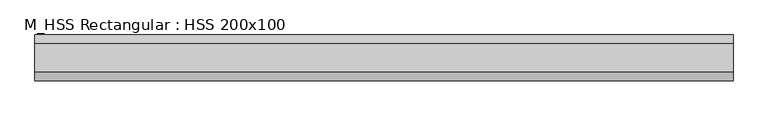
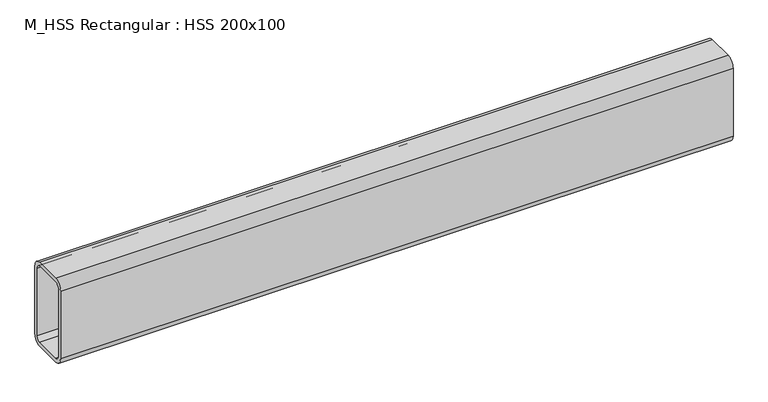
"""IFC4 building model written with IfcOpenShell, lengths in millimetres: beam geometry, M_HSS Rectangular : HSS 200x100."""

from ifc_helpers import new_model, si_unit, point, frame, frame_2d, origin, place, context, project, spatial, polyline, circle_curve, trimmed, segment, composite_curve, outline, extrude, source, transform, mapped, element, save


def m_hss_rectangular_hss_200x100_02db10bf(model_context):
    return source(origin(), model_context, "Body", "SweptSolid", [
        extrude(outline(composite_curve([segment(trimmed(circle_curve(frame_2d((-30.94, 80.94)), 19.06), [point((-50.0, 80.94))], [point((-30.94, 100.0))], False, "CARTESIAN"), True, "CONTINUOUS"), segment(polyline([(-30.94, 100.0), (30.94, 100.0)]), True, "CONTINUOUS"), segment(trimmed(circle_curve(frame_2d((30.94, 80.94)), 19.06), [point((30.94, 100.0))], [point((50.0, 80.94))], False, "CARTESIAN"), True, "CONTINUOUS"), segment(polyline([(50.0, 80.94), (50.0, -80.94)]), True, "CONTINUOUS"), segment(trimmed(circle_curve(frame_2d((30.94, -80.94)), 19.06), [point((50.0, -80.94))], [point((30.94, -100.0))], False, "CARTESIAN"), True, "CONTINUOUS"), segment(polyline([(30.94, -100.0), (-30.94, -100.0)]), True, "CONTINUOUS"), segment(trimmed(circle_curve(frame_2d((-30.94, -80.94)), 19.06), [point((-30.94, -100.0))], [point((-50.0, -80.94))], False, "CARTESIAN"), True, "CONTINUOUS"), segment(polyline([(-50.0, -80.94), (-50.0, 80.94)]), True, "CONTINUOUS")], self_intersect=False), holes=[composite_curve([segment(polyline([(30.94, 90.47), (-30.94, 90.47)]), True, "CONTINUOUS"), segment(trimmed(circle_curve(frame_2d((-30.94, 80.94)), 9.53), [point((-30.94, 90.47))], [point((-40.47, 80.94))], True, "CARTESIAN"), True, "CONTINUOUS"), segment(polyline([(-40.47, 80.94), (-40.47, -80.94)]), True, "CONTINUOUS"), segment(trimmed(circle_curve(frame_2d((-30.94, -80.94)), 9.53), [point((-40.47, -80.94))], [point((-30.94, -90.47))], True, "CARTESIAN"), True, "CONTINUOUS"), segment(polyline([(-30.94, -90.47), (30.94, -90.47)]), True, "CONTINUOUS"), segment(trimmed(circle_curve(frame_2d((30.94, -80.94)), 9.53), [point((30.94, -90.47))], [point((40.47, -80.94))], True, "CARTESIAN"), True, "CONTINUOUS"), segment(polyline([(40.47, -80.94), (40.47, 80.94)]), True, "CONTINUOUS"), segment(trimmed(circle_curve(frame_2d((30.94, 80.94)), 9.53), [point((40.47, 80.94))], [point((30.94, 90.47))], True, "CARTESIAN"), True, "CONTINUOUS")], self_intersect=False)]), frame((-758.3, 0.0, 0.0), z_axis=(1.0, 0.0, 0.0), x_axis=(0.0, 1.0, 0.0)), (0.0, 0.0, 1.0), 1516.6),
    ])


if __name__ == "__main__":
    model = new_model("IFC4")
    model_context = context("Model", 3, world=origin())
    ifc_project = project(units=[si_unit("LENGTHUNIT", "METRE", prefix="MILLI")], contexts=[model_context])
    site = spatial("IfcSite", under=ifc_project)
    building = spatial("IfcBuilding", under=site)
    placement = place(None, origin())
    m_hss_rectangular_hss_200x100_shape = m_hss_rectangular_hss_200x100_02db10bf(model_context)
    element("IfcBeam", 1, ObjectType="M_HSS Rectangular : HSS 200x100", at=placement, inside=building, context=model_context, shape_type="MappedRepresentation", body=[
        mapped(m_hss_rectangular_hss_200x100_shape, transform((0.0, 0.0, 0.0), x_axis=(1.0, 0.0, 0.0), y_axis=(0.0, 1.0, 0.0), z_axis=(0.0, 0.0, 1.0))),
    ])
    save(model, "model.ifc")
